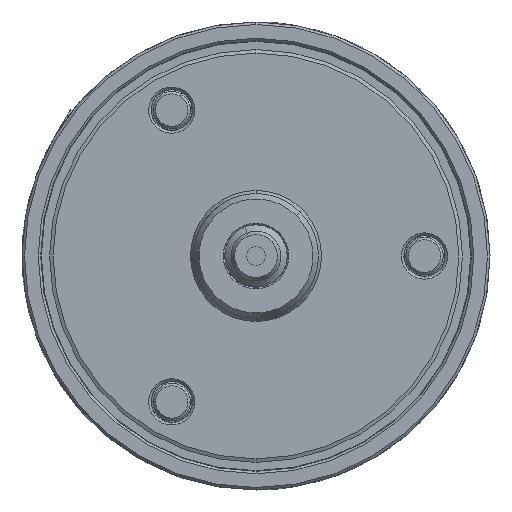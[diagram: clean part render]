
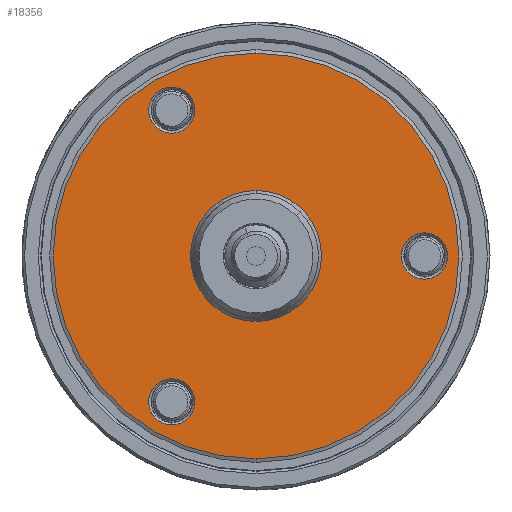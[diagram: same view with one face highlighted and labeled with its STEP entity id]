
A CAD part, left-side view. The second image highlights one B-rep face of the part: STEP entity #18356.
In plain terms, the highlighted planar face has unit normal (-1, 0, 0).
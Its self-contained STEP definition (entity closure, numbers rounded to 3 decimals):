
#940 = AXIS2_PLACEMENT_3D ( 'NONE', #21422, #21379, #21361 ) ;
#1572 = AXIS2_PLACEMENT_3D ( 'NONE', #32343, #32122, #31928 ) ;
#1781 = AXIS2_PLACEMENT_3D ( 'NONE', #6667, #6629, #6598 ) ;
#2388 = DIRECTION ( 'NONE',  ( 0., 0., -1. ) ) ;
#2450 = DIRECTION ( 'NONE',  ( -1., 0., 0. ) ) ;
#2460 = CARTESIAN_POINT ( 'NONE',  ( -38., 0., 0. ) ) ;
#3283 = EDGE_CURVE ( 'NONE', #16204, #28079, #4525, .T. ) ;
#3626 = CARTESIAN_POINT ( 'NONE',  ( -38., 0., 10.5 ) ) ;
#4525 = CIRCLE ( 'NONE', #29593, 3.7 ) ;
#5181 = CIRCLE ( 'NONE', #19172, 10.5 ) ;
#5875 = VERTEX_POINT ( 'NONE', #13677 ) ;
#6270 = AXIS2_PLACEMENT_3D ( 'NONE', #17972, #17309, #17206 ) ;
#6598 = DIRECTION ( 'NONE',  ( 0., 0., -1. ) ) ;
#6629 = DIRECTION ( 'NONE',  ( 1., 0., 0. ) ) ;
#6667 = CARTESIAN_POINT ( 'NONE',  ( -38., 0., 0. ) ) ;
#7144 = EDGE_CURVE ( 'NONE', #12749, #22245, #32755, .T. ) ;
#7639 = CIRCLE ( 'NONE', #29260, 3.7 ) ;
#7806 = CARTESIAN_POINT ( 'NONE',  ( -38., 0., -32.5 ) ) ;
#7903 = EDGE_CURVE ( 'NONE', #27875, #15476, #30623, .T. ) ;
#8317 = EDGE_CURVE ( 'NONE', #15476, #27875, #29527, .T. ) ;
#8615 = CARTESIAN_POINT ( 'NONE',  ( -38., 0., -10.5 ) ) ;
#8799 = AXIS2_PLACEMENT_3D ( 'NONE', #28073, #28144, #28011 ) ;
#9538 = EDGE_CURVE ( 'NONE', #24625, #14515, #26176, .T. ) ;
#9861 = DIRECTION ( 'NONE',  ( 0., 0., -1. ) ) ;
#9902 = DIRECTION ( 'NONE',  ( 1., 0., 0. ) ) ;
#9944 = CARTESIAN_POINT ( 'NONE',  ( -38., 13.5, 23.383 ) ) ;
#10044 = EDGE_CURVE ( 'NONE', #28079, #16204, #24476, .T. ) ;
#10273 = FACE_BOUND ( 'NONE', #33081, .T. ) ;
#10430 = CIRCLE ( 'NONE', #8799, 3.7 ) ;
#10660 = FACE_BOUND ( 'NONE', #16178, .T. ) ;
#12093 = DIRECTION ( 'NONE',  ( 0., 0., -1. ) ) ;
#12749 = VERTEX_POINT ( 'NONE', #23441 ) ;
#12960 = EDGE_LOOP ( 'NONE', ( #25324, #27710 ) ) ;
#13137 = DIRECTION ( 'NONE',  ( 1., 0., 0. ) ) ;
#13329 = CARTESIAN_POINT ( 'NONE',  ( -38., 0., 0. ) ) ;
#13394 = DIRECTION ( 'NONE',  ( 0., 0., -1. ) ) ;
#13480 = DIRECTION ( 'NONE',  ( 1., 0., 0. ) ) ;
#13498 = CARTESIAN_POINT ( 'NONE',  ( -38., 13.5, -23.383 ) ) ;
#13677 = CARTESIAN_POINT ( 'NONE',  ( -38., 13.5, 19.683 ) ) ;
#13848 = EDGE_CURVE ( 'NONE', #5875, #24425, #10430, .T. ) ;
#14195 = DIRECTION ( 'NONE',  ( 0., 0., -1. ) ) ;
#14200 = DIRECTION ( 'NONE',  ( 1., 0., 0. ) ) ;
#14232 = CARTESIAN_POINT ( 'NONE',  ( -38., -27., 0. ) ) ;
#14271 = EDGE_LOOP ( 'NONE', ( #32497, #19760 ) ) ;
#14515 = VERTEX_POINT ( 'NONE', #3626 ) ;
#14741 = CARTESIAN_POINT ( 'NONE',  ( -38., 13.5, -19.683 ) ) ;
#15476 = VERTEX_POINT ( 'NONE', #7806 ) ;
#16113 = CARTESIAN_POINT ( 'NONE',  ( -38., 13.5, 27.083 ) ) ;
#16178 = EDGE_LOOP ( 'NONE', ( #28097, #28814 ) ) ;
#16204 = VERTEX_POINT ( 'NONE', #17974 ) ;
#17100 = AXIS2_PLACEMENT_3D ( 'NONE', #18371, #18326, #18254 ) ;
#17206 = DIRECTION ( 'NONE',  ( 0., 0., -1. ) ) ;
#17309 = DIRECTION ( 'NONE',  ( 1., 0., 0. ) ) ;
#17756 = AXIS2_PLACEMENT_3D ( 'NONE', #14232, #14200, #14195 ) ;
#17972 = CARTESIAN_POINT ( 'NONE',  ( -38., -32.5, 0. ) ) ;
#17974 = CARTESIAN_POINT ( 'NONE',  ( -38., 13.5, -27.083 ) ) ;
#18254 = DIRECTION ( 'NONE',  ( 0., 0., -1. ) ) ;
#18326 = DIRECTION ( 'NONE',  ( 1., 0., 0. ) ) ;
#18356 = ADVANCED_FACE ( 'NONE', ( #22173, #10660, #10273, #22207, #22237 ), #19402, .F. ) ;
#18371 = CARTESIAN_POINT ( 'NONE',  ( -38., -27., 0. ) ) ;
#18768 = CARTESIAN_POINT ( 'NONE',  ( -38., 0., 32.5 ) ) ;
#19172 = AXIS2_PLACEMENT_3D ( 'NONE', #2460, #2450, #2388 ) ;
#19402 = PLANE ( 'NONE',  #6270 ) ;
#19528 = EDGE_CURVE ( 'NONE', #24425, #5875, #7639, .T. ) ;
#19760 = ORIENTED_EDGE ( 'NONE', *, *, #31600, .F. ) ;
#20216 = EDGE_LOOP ( 'NONE', ( #33246, #30226 ) ) ;
#21361 = DIRECTION ( 'NONE',  ( 0., 0., -1. ) ) ;
#21379 = DIRECTION ( 'NONE',  ( 1., 0., 0. ) ) ;
#21422 = CARTESIAN_POINT ( 'NONE',  ( -38., 13.5, -23.383 ) ) ;
#22173 = FACE_BOUND ( 'NONE', #12960, .T. ) ;
#22207 = FACE_BOUND ( 'NONE', #14271, .T. ) ;
#22237 = FACE_OUTER_BOUND ( 'NONE', #20216, .T. ) ;
#22245 = VERTEX_POINT ( 'NONE', #25998 ) ;
#23441 = CARTESIAN_POINT ( 'NONE',  ( -38., -27., -3.7 ) ) ;
#24425 = VERTEX_POINT ( 'NONE', #16113 ) ;
#24476 = CIRCLE ( 'NONE', #940, 3.7 ) ;
#24625 = VERTEX_POINT ( 'NONE', #8615 ) ;
#25324 = ORIENTED_EDGE ( 'NONE', *, *, #29439, .T. ) ;
#25998 = CARTESIAN_POINT ( 'NONE',  ( -38., -27., 3.7 ) ) ;
#26176 = CIRCLE ( 'NONE', #1572, 10.5 ) ;
#27710 = ORIENTED_EDGE ( 'NONE', *, *, #7144, .T. ) ;
#27875 = VERTEX_POINT ( 'NONE', #18768 ) ;
#28011 = DIRECTION ( 'NONE',  ( 0., 0., -1. ) ) ;
#28073 = CARTESIAN_POINT ( 'NONE',  ( -38., 13.5, 23.383 ) ) ;
#28079 = VERTEX_POINT ( 'NONE', #14741 ) ;
#28097 = ORIENTED_EDGE ( 'NONE', *, *, #19528, .T. ) ;
#28144 = DIRECTION ( 'NONE',  ( 1., 0., 0. ) ) ;
#28814 = ORIENTED_EDGE ( 'NONE', *, *, #13848, .T. ) ;
#29260 = AXIS2_PLACEMENT_3D ( 'NONE', #9944, #9902, #9861 ) ;
#29439 = EDGE_CURVE ( 'NONE', #22245, #12749, #30958, .T. ) ;
#29527 = CIRCLE ( 'NONE', #33422, 32.5 ) ;
#29593 = AXIS2_PLACEMENT_3D ( 'NONE', #13498, #13480, #13394 ) ;
#30226 = ORIENTED_EDGE ( 'NONE', *, *, #7903, .F. ) ;
#30474 = ORIENTED_EDGE ( 'NONE', *, *, #10044, .T. ) ;
#30623 = CIRCLE ( 'NONE', #1781, 32.5 ) ;
#30958 = CIRCLE ( 'NONE', #17756, 3.7 ) ;
#31312 = ORIENTED_EDGE ( 'NONE', *, *, #3283, .T. ) ;
#31600 = EDGE_CURVE ( 'NONE', #14515, #24625, #5181, .T. ) ;
#31928 = DIRECTION ( 'NONE',  ( 0., 0., -1. ) ) ;
#32122 = DIRECTION ( 'NONE',  ( -1., 0., 0. ) ) ;
#32343 = CARTESIAN_POINT ( 'NONE',  ( -38., 0., 0. ) ) ;
#32497 = ORIENTED_EDGE ( 'NONE', *, *, #9538, .F. ) ;
#32755 = CIRCLE ( 'NONE', #17100, 3.7 ) ;
#33081 = EDGE_LOOP ( 'NONE', ( #30474, #31312 ) ) ;
#33246 = ORIENTED_EDGE ( 'NONE', *, *, #8317, .F. ) ;
#33422 = AXIS2_PLACEMENT_3D ( 'NONE', #13329, #13137, #12093 ) ;
